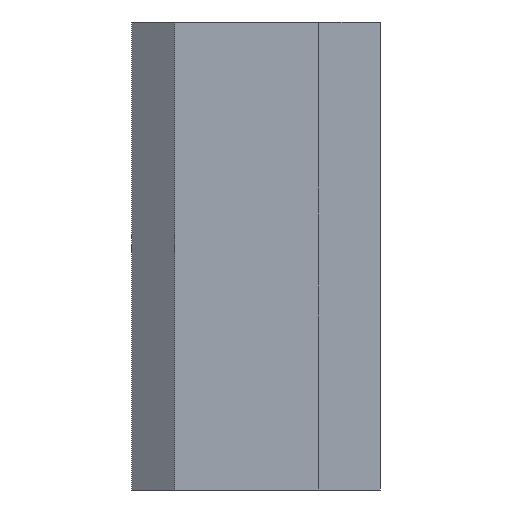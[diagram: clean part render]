
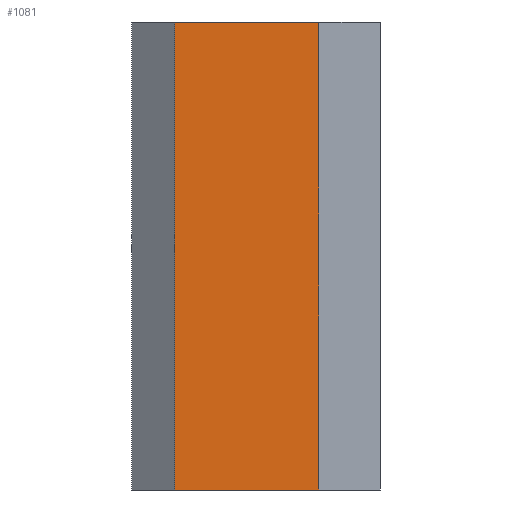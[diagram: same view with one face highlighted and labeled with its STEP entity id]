
A CAD part, left-side view. The second image highlights one B-rep face of the part: STEP entity #1081.
In plain terms, the highlighted planar face has unit normal (-1, 0, 0).
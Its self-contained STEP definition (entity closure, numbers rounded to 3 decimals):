
#39 = CARTESIAN_POINT ( 'NONE',  ( -14.5, -1.2, 0. ) ) ;
#73 = DIRECTION ( 'NONE',  ( 1., 0., 0. ) ) ;
#75 = CARTESIAN_POINT ( 'NONE',  ( -14.5, 6.5, 25. ) ) ;
#80 = CARTESIAN_POINT ( 'NONE',  ( -14.5, 6.5, 25. ) ) ;
#172 = DIRECTION ( 'NONE',  ( 0., 0., -1. ) ) ;
#216 = VERTEX_POINT ( 'NONE', #1089 ) ;
#235 = VECTOR ( 'NONE', #587, 1000. ) ;
#241 = EDGE_LOOP ( 'NONE', ( #1084, #501, #1029, #691 ) ) ;
#263 = EDGE_CURVE ( 'NONE', #1061, #520, #1199, .T. ) ;
#264 = DIRECTION ( 'NONE',  ( 0., -1., 0. ) ) ;
#294 = CARTESIAN_POINT ( 'NONE',  ( -14.5, 6.5, 25. ) ) ;
#369 = EDGE_CURVE ( 'NONE', #880, #216, #452, .T. ) ;
#452 = LINE ( 'NONE', #294, #235 ) ;
#487 = LINE ( 'NONE', #841, #1177 ) ;
#501 = ORIENTED_EDGE ( 'NONE', *, *, #263, .T. ) ;
#520 = VERTEX_POINT ( 'NONE', #647 ) ;
#525 = CARTESIAN_POINT ( 'NONE',  ( -14.5, -1.2, 0. ) ) ;
#587 = DIRECTION ( 'NONE',  ( 0., 0., -1. ) ) ;
#607 = FACE_OUTER_BOUND ( 'NONE', #241, .T. ) ;
#647 = CARTESIAN_POINT ( 'NONE',  ( -14.5, -1.2, 25. ) ) ;
#691 = ORIENTED_EDGE ( 'NONE', *, *, #369, .T. ) ;
#708 = VECTOR ( 'NONE', #1174, 1000. ) ;
#747 = PLANE ( 'NONE',  #828 ) ;
#828 = AXIS2_PLACEMENT_3D ( 'NONE', #80, #73, #172 ) ;
#841 = CARTESIAN_POINT ( 'NONE',  ( -14.5, 6.5, 0. ) ) ;
#863 = LINE ( 'NONE', #75, #992 ) ;
#880 = VERTEX_POINT ( 'NONE', #1221 ) ;
#898 = EDGE_CURVE ( 'NONE', #880, #520, #863, .T. ) ;
#912 = EDGE_CURVE ( 'NONE', #216, #1061, #487, .T. ) ;
#992 = VECTOR ( 'NONE', #1043, 1000. ) ;
#1029 = ORIENTED_EDGE ( 'NONE', *, *, #898, .F. ) ;
#1043 = DIRECTION ( 'NONE',  ( 0., -1., 0. ) ) ;
#1061 = VERTEX_POINT ( 'NONE', #39 ) ;
#1081 = ADVANCED_FACE ( 'NONE', ( #607 ), #747, .F. ) ;
#1084 = ORIENTED_EDGE ( 'NONE', *, *, #912, .T. ) ;
#1089 = CARTESIAN_POINT ( 'NONE',  ( -14.5, 6.5, 0. ) ) ;
#1174 = DIRECTION ( 'NONE',  ( 0., 0., 1. ) ) ;
#1177 = VECTOR ( 'NONE', #264, 1000. ) ;
#1199 = LINE ( 'NONE', #525, #708 ) ;
#1221 = CARTESIAN_POINT ( 'NONE',  ( -14.5, 6.5, 25. ) ) ;
